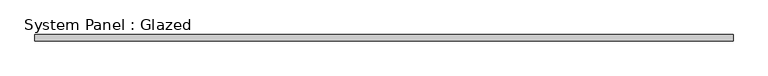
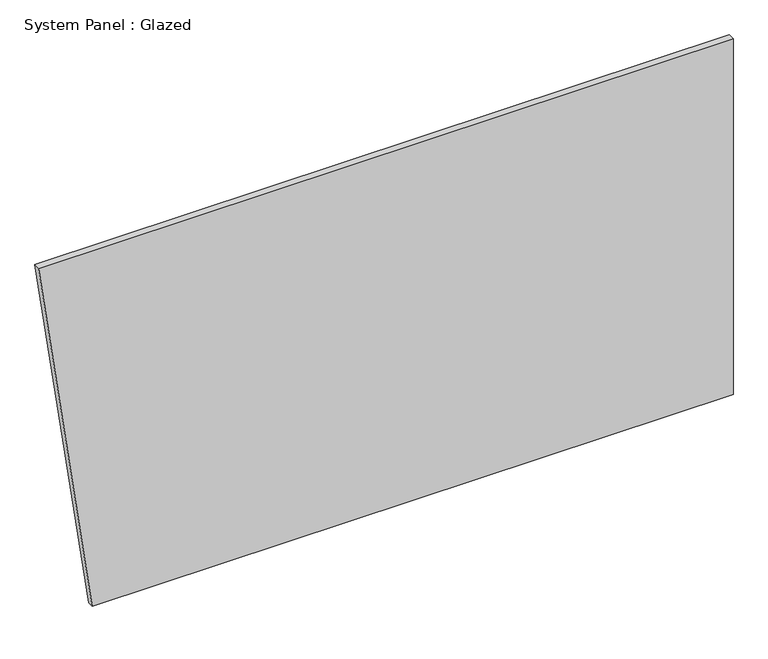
"""IFC4 building model written with IfcOpenShell, lengths in millimetres: plate geometry, System Panel : Glazed."""

from ifc_helpers import new_model, si_unit, frame, origin, place, context, project, spatial, polyline, outline, extrude, source, transform, mapped, element, save


def system_panel_glazed_bb4d1e5a(model_context):
    return source(origin(), model_context, "Body", "SweptSolid", [
        extrude(outline(polyline([(0.0, -1189.0669389), (0.0, 1406.1122941), (1524.0, 1406.1122941), (1524.0, -1406.1122941), (0.0, -1189.0669389)])), frame((0.0, 19.05, 0.0), z_axis=(0.0, 1.0, 0.0), x_axis=(0.0, 0.0, 1.0)), (0.0, 0.0, 1.0), 25.4),
    ])


if __name__ == "__main__":
    model = new_model("IFC4")
    model_context = context("Model", 3, world=origin())
    ifc_project = project(units=[si_unit("LENGTHUNIT", "METRE", prefix="MILLI")], contexts=[model_context])
    site = spatial("IfcSite", under=ifc_project)
    building = spatial("IfcBuilding", under=site)
    placement = place(None, origin())
    system_panel_glazed_shape = system_panel_glazed_bb4d1e5a(model_context)
    element("IfcPlate", 1, ObjectType="System Panel : Glazed", at=placement, inside=building, context=model_context, shape_type="MappedRepresentation", body=[
        mapped(system_panel_glazed_shape, transform((0.0, 0.0, 0.0), x_axis=(1.0, 0.0, 0.0), y_axis=(0.0, 1.0, 0.0), z_axis=(0.0, 0.0, 1.0))),
    ])
    save(model, "model.ifc")
